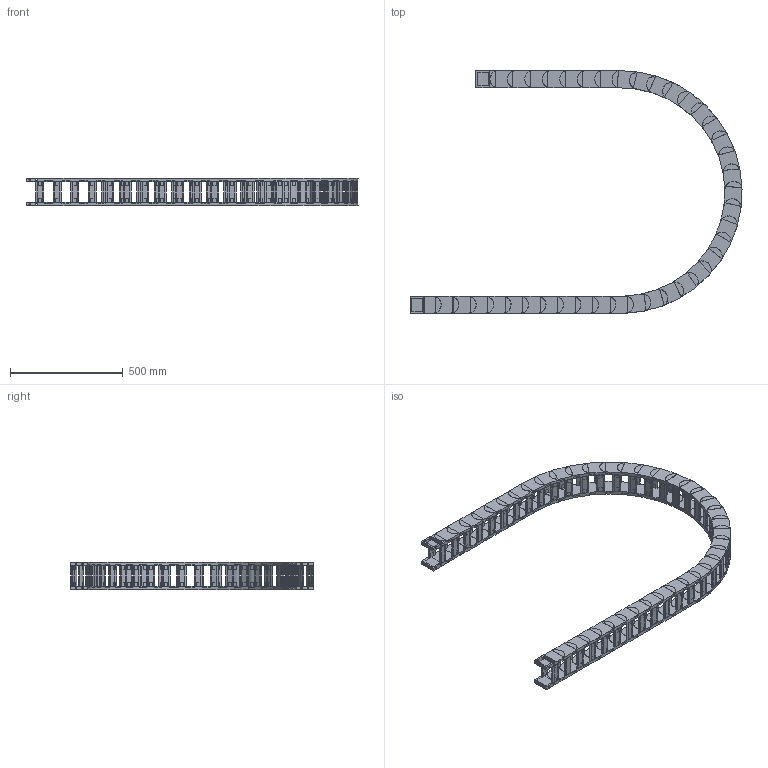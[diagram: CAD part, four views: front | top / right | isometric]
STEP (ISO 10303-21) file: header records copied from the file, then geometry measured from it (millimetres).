
FILE_DESCRIPTION((''),'2;1');
FILE_NAME('HD55-R500-ZPT_ASM','2022-06-17T19:44:24',('admin'),(''),'CREO PARAMETRIC BY PTC INC, 2021164','CREO PARAMETRIC BY PTC INC, 2021164','');
FILE_SCHEMA(('CONFIG_CONTROL_DESIGN','GEOMETRIC_VALIDATION_PROPERTIES_MIM'));
Length unit declared in the file: millimetre
Products named in the file (6): HD-55; 55-500001; HD55_ASM; H55-T1; H55-T2; HD55-R500-ZPT_ASM
Assembly tree (44 placements, depth 3):
  HD55-R500-ZPT_ASM
    HD55_ASM  x38
      HD-55
      55-500001
    H55-T1
    H55-T2
    55-500001  x2
Bounding box: 1472.73 x 1075.69 x 122.4 mm (x, y, z)
Volume: 9218100.8 mm3; surface area: 2867744.7 mm2
Topology: 160 solids, 160 shells, 2622 faces, 6726 edges, 4588 vertices
Faces by surface type: plane 2180, cylinder 442
Entity records: 8951 total; most frequent: CARTESIAN_POINT 1324, DIRECTION 1286, ORIENTED_EDGE 1172, EDGE_CURVE 586, AXIS2_PLACEMENT_3D 434, VECTOR 418, LINE 418, VERTEX_POINT 396
